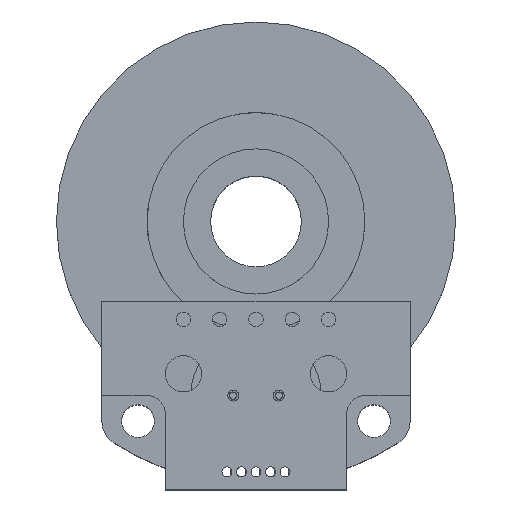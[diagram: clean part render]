
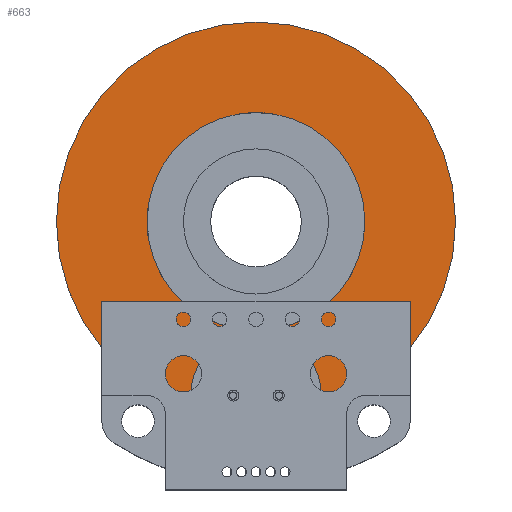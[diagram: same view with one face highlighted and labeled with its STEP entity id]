
A CAD part, top view. The second image highlights one B-rep face of the part: STEP entity #663.
In plain terms, the highlighted planar face has unit normal (0, 0, 1).
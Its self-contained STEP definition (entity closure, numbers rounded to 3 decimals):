
#663=ADVANCED_FACE('',(#1129,#1130),#1131,.T.);
#1129=FACE_OUTER_BOUND('',#1608,.T.);
#1130=FACE_BOUND('',#1609,.T.);
#1131=PLANE('',#1610);
#1608=EDGE_LOOP('',(#3346,#3347));
#1609=EDGE_LOOP('',(#3348,#3349));
#1610=AXIS2_PLACEMENT_3D('',#3350,#3351,#3352);
#3346=ORIENTED_EDGE('',*,*,#3984,.T.);
#3347=ORIENTED_EDGE('',*,*,#3981,.T.);
#3348=ORIENTED_EDGE('',*,*,#3985,.F.);
#3349=ORIENTED_EDGE('',*,*,#3979,.F.);
#3350=CARTESIAN_POINT('',(0.,0.0,4.5));
#3351=DIRECTION('',(0.0,0.0,1.0));
#3352=DIRECTION('',(1.0,0.0,0.0));
#3979=EDGE_CURVE('',#4914,#4910,#4916,.T.);
#3981=EDGE_CURVE('',#4920,#4917,#4921,.T.);
#3984=EDGE_CURVE('',#4917,#4920,#4925,.T.);
#3985=EDGE_CURVE('',#4910,#4914,#4926,.T.);
#4910=VERTEX_POINT('',#6441);
#4914=VERTEX_POINT('',#6446);
#4916=CIRCLE('',#6449,4.75);
#4917=VERTEX_POINT('',#6450);
#4920=VERTEX_POINT('',#6454);
#4921=CIRCLE('',#6455,11.0);
#4925=CIRCLE('',#6460,11.0);
#4926=CIRCLE('',#6461,4.75);
#6441=CARTESIAN_POINT('',(4.75,0.0,4.5));
#6446=CARTESIAN_POINT('',(-4.75,0.,4.5));
#6449=AXIS2_PLACEMENT_3D('',#7337,#7338,#7339);
#6450=CARTESIAN_POINT('',(11.0,0.0,4.5));
#6454=CARTESIAN_POINT('',(-11.0,0.,4.5));
#6455=AXIS2_PLACEMENT_3D('',#7341,#7342,#7343);
#6460=AXIS2_PLACEMENT_3D('',#7348,#7349,#7350);
#6461=AXIS2_PLACEMENT_3D('',#7351,#7352,#7353);
#7337=CARTESIAN_POINT('',(0.,0.0,4.5));
#7338=DIRECTION('',(0.0,0.0,1.0));
#7339=DIRECTION('',(1.0,0.0,0.0));
#7341=CARTESIAN_POINT('',(0.,0.0,4.5));
#7342=DIRECTION('',(0.0,0.0,1.0));
#7343=DIRECTION('',(1.0,0.0,0.0));
#7348=CARTESIAN_POINT('',(0.,0.0,4.5));
#7349=DIRECTION('',(0.0,0.0,1.0));
#7350=DIRECTION('',(1.0,0.0,0.0));
#7351=CARTESIAN_POINT('',(0.,0.0,4.5));
#7352=DIRECTION('',(0.0,0.0,1.0));
#7353=DIRECTION('',(1.0,0.0,0.0));
